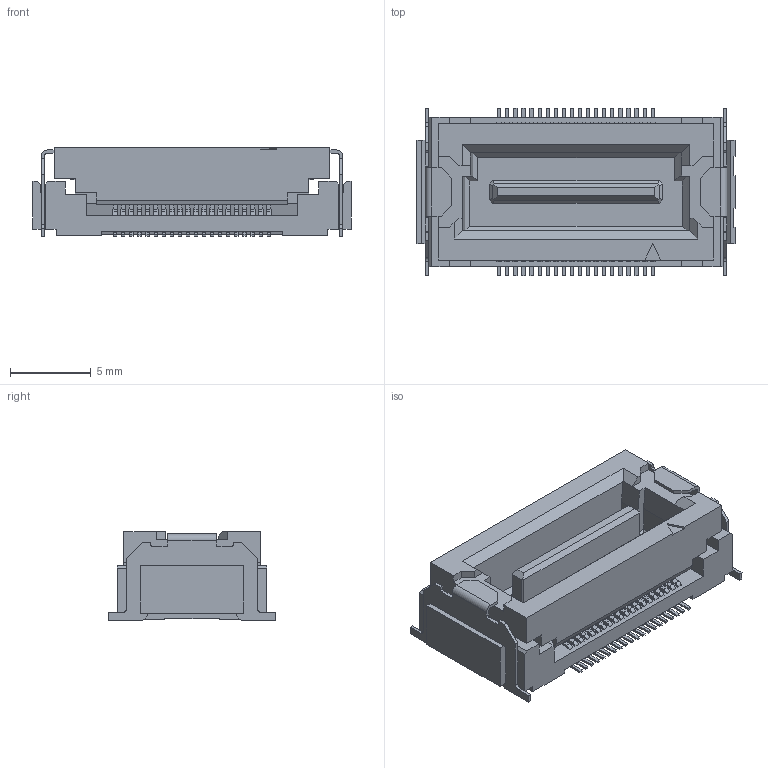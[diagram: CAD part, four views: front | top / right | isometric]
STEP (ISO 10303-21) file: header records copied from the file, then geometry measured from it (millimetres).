
FILE_DESCRIPTION(('Creo Elements/Direct Modeling STEP Export'),'2;1');
FILE_NAME('DT00-040S-T.stp','2017-08-08T19:40:58',(''),(''),'Creo Elements/Direct Modeling STEP processor for AP214 (Solid Model)','Creo Elements/Direct Modeling 19.0F 14-Feb-2017 (C) Parametric Technology GmbH','');
FILE_SCHEMA(('AUTOMOTIVE_DESIGN { 1 0 10303 214 1 1 1 1 }'));
Length unit declared in the file: millimetre
Products named in the file (2): DT00-040S-T
Assembly tree (1 placements, depth 2):
  DT00-040S-T
    DT00-040S-T
Bounding box: 19.7 x 10.38 x 5.5 mm (x, y, z)
Volume: 588.6 mm3; surface area: 1257.3 mm2
Topology: 1 solids, 1 shells, 1332 faces, 3683 edges, 2394 vertices
Faces by surface type: plane 1076, cylinder 256
Entity records: 41441 total; most frequent: ORIENTED_EDGE 7366, CARTESIAN_POINT 7245, DIRECTION 6610, EDGE_CURVE 3683, VECTOR 3092, LINE 3092, VERTEX_POINT 2394, AXIS2_PLACEMENT_3D 1759
